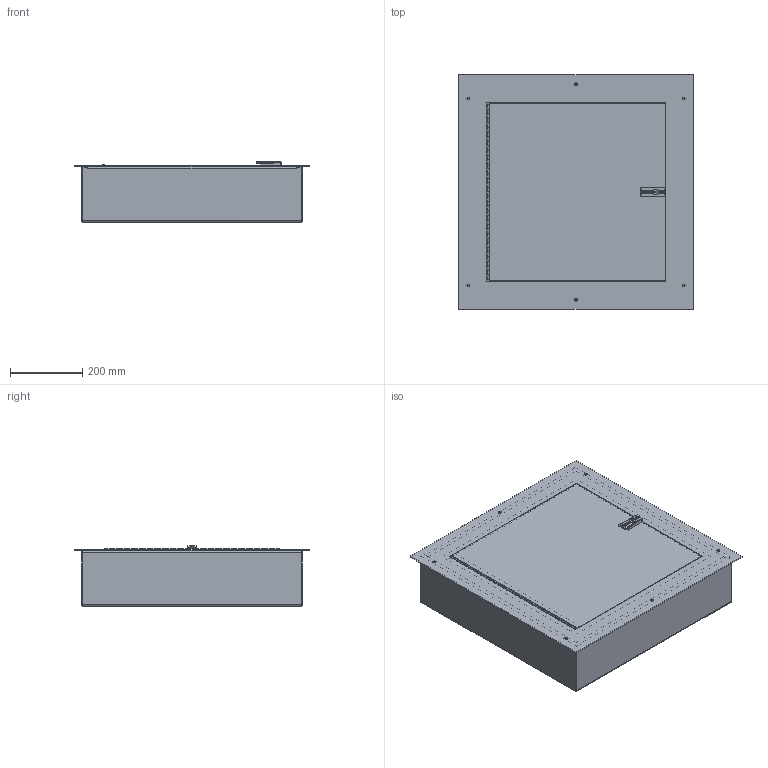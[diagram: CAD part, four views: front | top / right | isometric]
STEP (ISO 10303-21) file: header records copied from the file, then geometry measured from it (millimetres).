
FILE_DESCRIPTION (( 'STEP AP203' ), '1' );
FILE_NAME ('atc24246f.STEP', '2010-04-23T16:03:50', ( 'Hoffman User' ), ( 'Hoffman Enclosures' ), 'SwSTEP 2.0', 'SolidWorks 2009', '' );
FILE_SCHEMA (( 'CONFIG_CONTROL_DESIGN' ));
Length unit declared in the file: inch
Products named in the file (9): T90_DoorAssyFlushMount_24x24; T90_Panel_21x21; Hinge_2_50a16_87566959_19in; atc24246f; T90_Body_24x24x6; T90_CoverFlushMount_24x24; T90_Door_24x24; latch_87566953; hinge_assy_50A16_87566959_19in
Assembly tree (9 placements, depth 4):
  atc24246f
    T90_Body_24x24x6
    T90_Panel_21x21
    T90_DoorAssyFlushMount_24x24
      T90_Door_24x24
      latch_87566953
      hinge_assy_50A16_87566959_19in
        Hinge_2_50a16_87566959_19in  x2
      T90_CoverFlushMount_24x24
Bounding box: 647.7 x 647.7 x 165.86 mm (x, y, z)
Volume: 7927032.4 mm3; surface area: 3103477.8 mm2
Topology: 12 solids, 12 shells, 623 faces, 1691 edges, 1097 vertices
Faces by surface type: plane 329, cylinder 260, cone 12, torus 10, bspline 8, sphere 4
Entity records: 17124 total; most frequent: CARTESIAN_POINT 4487, ORIENTED_EDGE 2440, DIRECTION 2367, EDGE_CURVE 1220, AXIS2_PLACEMENT_3D 809, VERTEX_POINT 785, VECTOR 749, LINE 749
